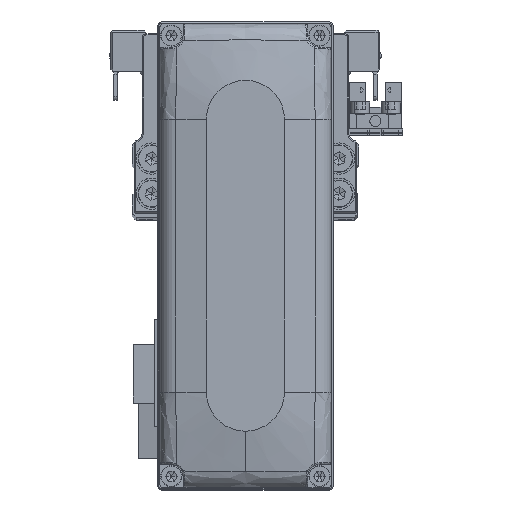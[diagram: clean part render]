
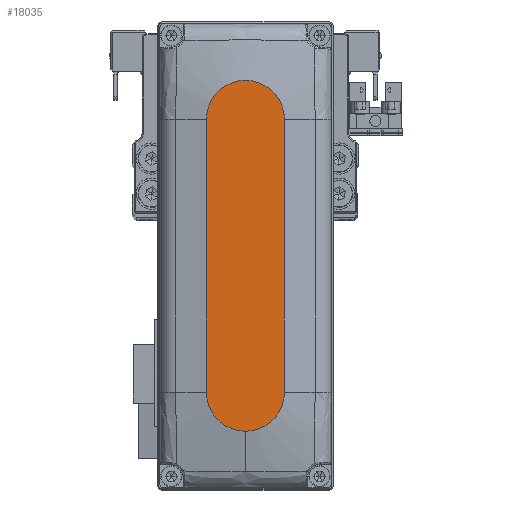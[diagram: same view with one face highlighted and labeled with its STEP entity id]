
A CAD part, top view. The second image highlights one B-rep face of the part: STEP entity #18035.
In plain terms, the highlighted planar face has unit normal (0, 0, 1).
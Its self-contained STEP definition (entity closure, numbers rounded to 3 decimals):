
#360 = EDGE_CURVE ( 'NONE', #11810, #10724, #7577, .T. ) ;
#416 = EDGE_CURVE ( 'NONE', #37349, #21469, #15621, .T. ) ;
#2782 = DIRECTION ( 'NONE',  ( 1., 0., 0. ) ) ;
#3156 = CARTESIAN_POINT ( 'NONE',  ( 35., 0., 28. ) ) ;
#3449 = DIRECTION ( 'NONE',  ( 1., 0., 0. ) ) ;
#4112 = ORIENTED_EDGE ( 'NONE', *, *, #416, .T. ) ;
#5284 = AXIS2_PLACEMENT_3D ( 'NONE', #18147, #29986, #3449 ) ;
#5637 = LINE ( 'NONE', #17441, #26519 ) ;
#6334 = PLANE ( 'NONE',  #5284 ) ;
#7577 = CIRCLE ( 'NONE', #29235, 10. ) ;
#8061 = DIRECTION ( 'NONE',  ( 1., 0., 0. ) ) ;
#8567 = LINE ( 'NONE', #20376, #38039 ) ;
#8812 = EDGE_CURVE ( 'NONE', #21469, #11810, #8567, .T. ) ;
#10041 = CARTESIAN_POINT ( 'NONE',  ( -35., -10., 28. ) ) ;
#10046 = CARTESIAN_POINT ( 'NONE',  ( 35., -10., 28. ) ) ;
#10724 = VERTEX_POINT ( 'NONE', #10041 ) ;
#11810 = VERTEX_POINT ( 'NONE', #13753 ) ;
#13753 = CARTESIAN_POINT ( 'NONE',  ( -35., 10., 28. ) ) ;
#14964 = DIRECTION ( 'NONE',  ( 0., 0., 1. ) ) ;
#15466 = ORIENTED_EDGE ( 'NONE', *, *, #29398, .T. ) ;
#15621 = CIRCLE ( 'NONE', #37302, 10. ) ;
#16434 = VERTEX_POINT ( 'NONE', #10046 ) ;
#17441 = CARTESIAN_POINT ( 'NONE',  ( -35., -10., 28. ) ) ;
#17480 = CARTESIAN_POINT ( 'NONE',  ( -35., 0., 28. ) ) ;
#18035 = ADVANCED_FACE ( 'NONE', ( #32883 ), #6334, .T. ) ;
#18147 = CARTESIAN_POINT ( 'NONE',  ( 0., 0., 28. ) ) ;
#20376 = CARTESIAN_POINT ( 'NONE',  ( -35., 10., 28. ) ) ;
#21469 = VERTEX_POINT ( 'NONE', #28259 ) ;
#22777 = CARTESIAN_POINT ( 'NONE',  ( 35., 0., 28. ) ) ;
#23266 = ORIENTED_EDGE ( 'NONE', *, *, #360, .T. ) ;
#26519 = VECTOR ( 'NONE', #29278, 1000. ) ;
#26785 = DIRECTION ( 'NONE',  ( 1., 0., 0. ) ) ;
#28259 = CARTESIAN_POINT ( 'NONE',  ( 35., 10., 28. ) ) ;
#28363 = CARTESIAN_POINT ( 'NONE',  ( 45., 0., 28. ) ) ;
#28877 = CIRCLE ( 'NONE', #33852, 10. ) ;
#29235 = AXIS2_PLACEMENT_3D ( 'NONE', #17480, #29316, #2782 ) ;
#29278 = DIRECTION ( 'NONE',  ( 1., 0., 0. ) ) ;
#29316 = DIRECTION ( 'NONE',  ( 0., 0., 1. ) ) ;
#29398 = EDGE_CURVE ( 'NONE', #16434, #37349, #28877, .T. ) ;
#29986 = DIRECTION ( 'NONE',  ( 0., 0., 1. ) ) ;
#31458 = EDGE_CURVE ( 'NONE', #10724, #16434, #5637, .T. ) ;
#31463 = ORIENTED_EDGE ( 'NONE', *, *, #8812, .T. ) ;
#32202 = DIRECTION ( 'NONE',  ( -1., 0., 0. ) ) ;
#32671 = EDGE_LOOP ( 'NONE', ( #31463, #23266, #36456, #15466, #4112 ) ) ;
#32883 = FACE_OUTER_BOUND ( 'NONE', #32671, .T. ) ;
#33852 = AXIS2_PLACEMENT_3D ( 'NONE', #22777, #34613, #8061 ) ;
#34613 = DIRECTION ( 'NONE',  ( 0., 0., 1. ) ) ;
#36456 = ORIENTED_EDGE ( 'NONE', *, *, #31458, .T. ) ;
#37302 = AXIS2_PLACEMENT_3D ( 'NONE', #3156, #14964, #26785 ) ;
#37349 = VERTEX_POINT ( 'NONE', #28363 ) ;
#38039 = VECTOR ( 'NONE', #32202, 1000. ) ;
